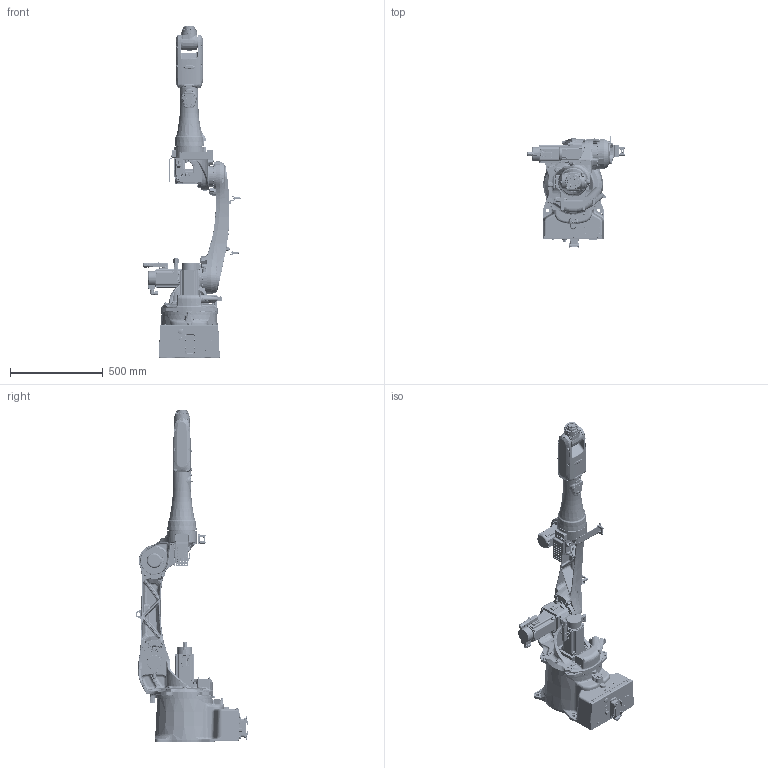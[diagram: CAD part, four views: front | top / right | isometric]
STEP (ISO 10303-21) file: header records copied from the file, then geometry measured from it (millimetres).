
FILE_DESCRIPTION(('CATIA V5 STEP Exchange','CAx-IF Rec.Pracs.--- Model Styling and Organization---1.5--- 2016-08-15','CAx-IF Rec.Pracs.---Supplemental Geometry---1.0---2011-11-01','CAx-IF Rec.Pracs.--- Composite Materials ---3.4---2017-06-13','CAx-IF Rec.Pracs.---Tessellated 3D Geometry---1.0---2015-12-17'),'2;1');
FILE_NAME('D:\モデリング\☆☆☆STEP\CF\CF\RARAS_CF011N-AC01\軽量化_STEP\Part\新しいフォルダー\CF011N-AC01.stp','2026-05-19T05:08:06+00:00',('none'),('none'),'CATIA Version 5-6 Release 2024 SP4 HF5','CATIA V5 STEP AP242 v3','none');
FILE_SCHEMA(('AP242_MANAGED_MODEL_BASED_3D_ENGINEERING_MIM_LF {1 0 10303 442 3 1 4}'));
Length unit declared in the file: millimetre
Products named in the file (8): CF011N-AC01; CF011N-AC01_BASE; CF011N-AC01_J1; CF011N-AC01_J2; CF011N-AC01_J3; CF011N-AC01_J4; CF011N-AC01_J5; CF011N-AC01_J6
Assembly tree (7 placements, depth 2):
  CF011N-AC01
    CF011N-AC01_BASE
    CF011N-AC01_J1
    CF011N-AC01_J2
    CF011N-AC01_J3
    CF011N-AC01_J4
    CF011N-AC01_J5
    CF011N-AC01_J6
Bounding box: 525.9 x 608.45 x 1793 mm (x, y, z)
Volume: 51755330.4 mm3; surface area: 2802312.4 mm2
Topology: 20 solids, 20 shells, 8110 faces, 21212 edges, 13356 vertices
Faces by surface type: cylinder 2540, plane 2341, bspline 1997, torus 592, cone 514, sphere 96, revolution 20, extrusion 10
Entity records: 406396 total; most frequent: CARTESIAN_POINT 238105, ORIENTED_EDGE 41814, DIRECTION 21922, EDGE_CURVE 20907, VERTEX_POINT 13355, AXIS2_PLACEMENT_3D 10675, EDGE_LOOP 8810, ADVANCED_FACE 8109
